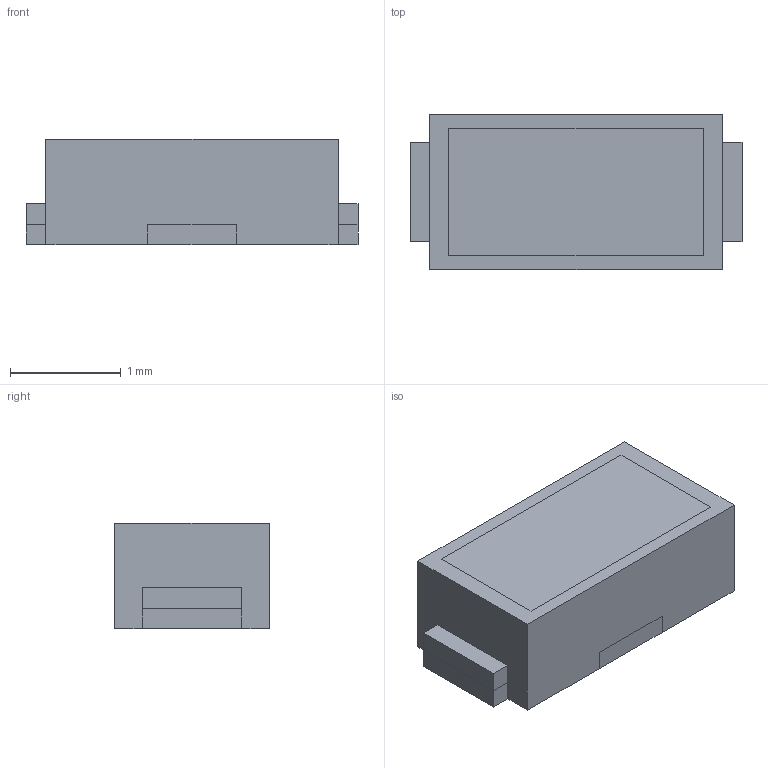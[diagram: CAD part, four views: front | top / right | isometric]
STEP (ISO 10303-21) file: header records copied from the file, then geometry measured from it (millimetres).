
FILE_DESCRIPTION(('Open CASCADE Model'),'2;1');
FILE_NAME('Open CASCADE Shape Model','2014-09-11T14:12:08',('Author'),( 'Open CASCADE'),'Open CASCADE STEP processor 6.6','Open CASCADE 6.6' ,'Unknown');
FILE_SCHEMA(('AUTOMOTIVE_DESIGN_CC2 { 1 2 10303 214 -1 1 5 4 }'));
Length unit declared in the file: millimetre
Products named in the file (15): GM_OSRAM_JNSH; ASSEMBLY; pin1; SOLID; pin2; thermalPad; platform; dome; die1
Assembly tree (14 placements, depth 4):
  GM_OSRAM_JNSH
    ASSEMBLY
      pin1
        SOLID
    ASSEMBLY
      pin2
        SOLID
    ASSEMBLY
      thermalPad
    ASSEMBLY
      platform
    ASSEMBLY
      dome
    ASSEMBLY
      die1
Bounding box: 3 x 1.4 x 0.95 mm (x, y, z)
Surface area: 33.7 mm2
Topology: 6 solids, 6 shells, 63 faces, 142 edges, 92 vertices
Faces by surface type: plane 63
Entity records: 3834 total; most frequent: CARTESIAN_POINT 608, DIRECTION 570, LINE 414, VECTOR 414, ORIENTED_EDGE 284, PCURVE 284, DEFINITIONAL_REPRESENTATION 284, EDGE_CURVE 142
